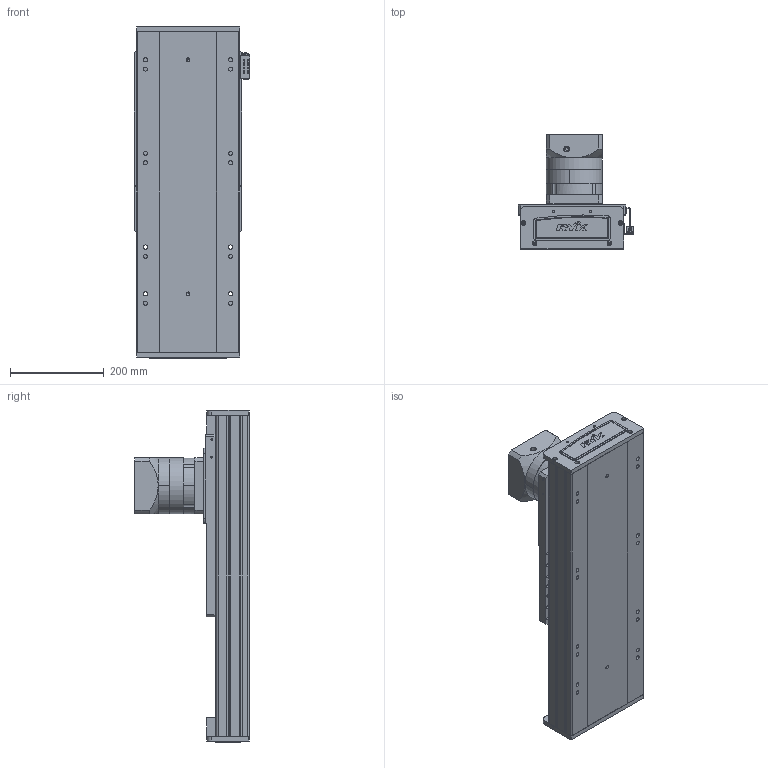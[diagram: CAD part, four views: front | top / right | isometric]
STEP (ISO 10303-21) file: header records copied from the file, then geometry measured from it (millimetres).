
FILE_DESCRIPTION (( 'STEP AP203' ), '1' );
FILE_NAME ('RY220-C-300-UK.SLDASM_0200.step', '2022-08-01T05:58:28', ( '' ), ( '' ), 'SwSTEP 2.0', 'SolidWorks 2016', '' );
FILE_SCHEMA (( 'CONFIG_CONTROL_DESIGN' ));
Length unit declared in the file: millimetre
Products named in the file (10): 滅袉蝶輸ㄗG412隅秶ㄘ; RY140直线电机感应器674光电安装座; RY220-C-300-UK.SLDASM_0200; RY220菁釱MK-300_0200; RY220喘沭賑輸; PF115L1-S2-22-58-110-145-M8; RY220喘沭俋离覜茼え; RY220喘沭綴裔啣; 覜茼ん674; RY220-齿条模组电机安装板
Assembly tree (12 placements, depth 2):
  RY220-C-300-UK.SLDASM_0200
    RY220菁釱MK-300_0200
    RY220喘沭賑輸
    RY220-齿条模组电机安装板
    PF115L1-S2-22-58-110-145-M8
    RY220喘沭綴裔啣  x2
    滅袉蝶輸ㄗG412隅秶ㄘ  x2
    RY140直线电机感应器674光电安装座
    覜茼ん674  x2
    RY220喘沭俋离覜茼え
Bounding box: 247 x 244.5 x 709 mm (x, y, z)
Volume: 8088432.5 mm3; surface area: 1488598.3 mm2
Topology: 18 solids, 26 shells, 1786 faces, 4767 edges, 3076 vertices
Faces by surface type: cylinder 777, plane 751, bspline 162, cone 96
Entity records: 56205 total; most frequent: CARTESIAN_POINT 15654, ORIENTED_EDGE 8242, DIRECTION 8183, EDGE_CURVE 4121, AXIS2_PLACEMENT_3D 3073, VERTEX_POINT 2702, LINE 2037, VECTOR 2037
